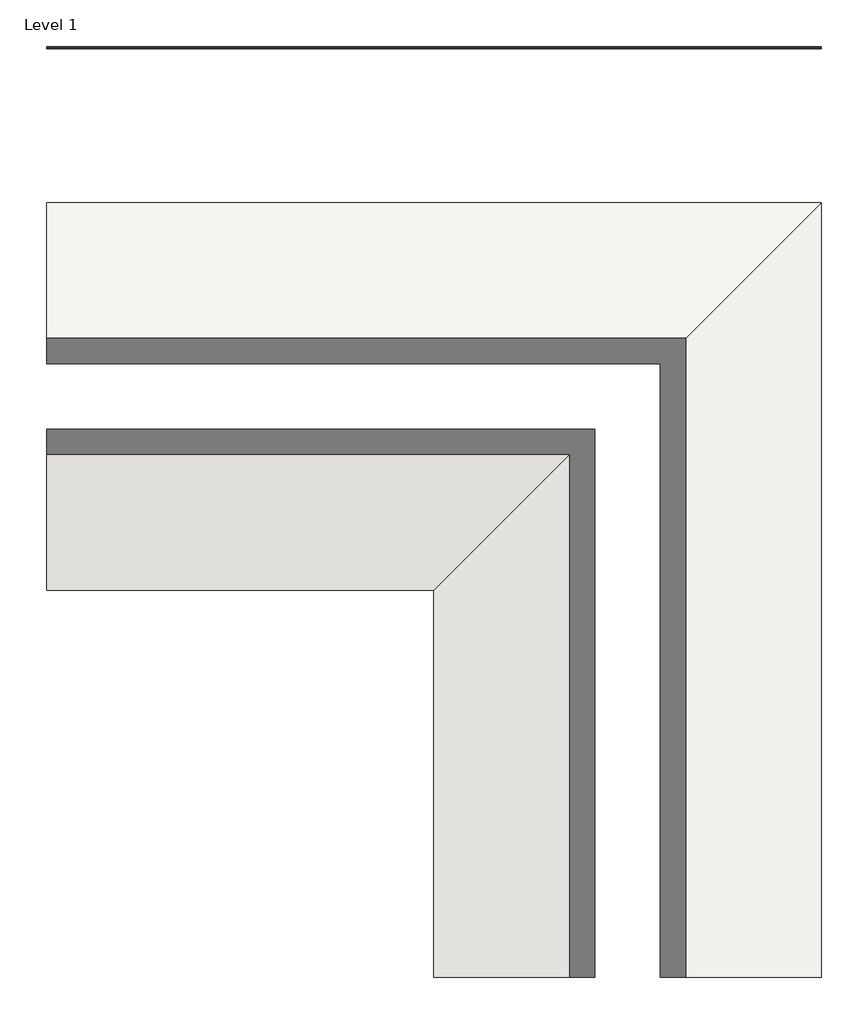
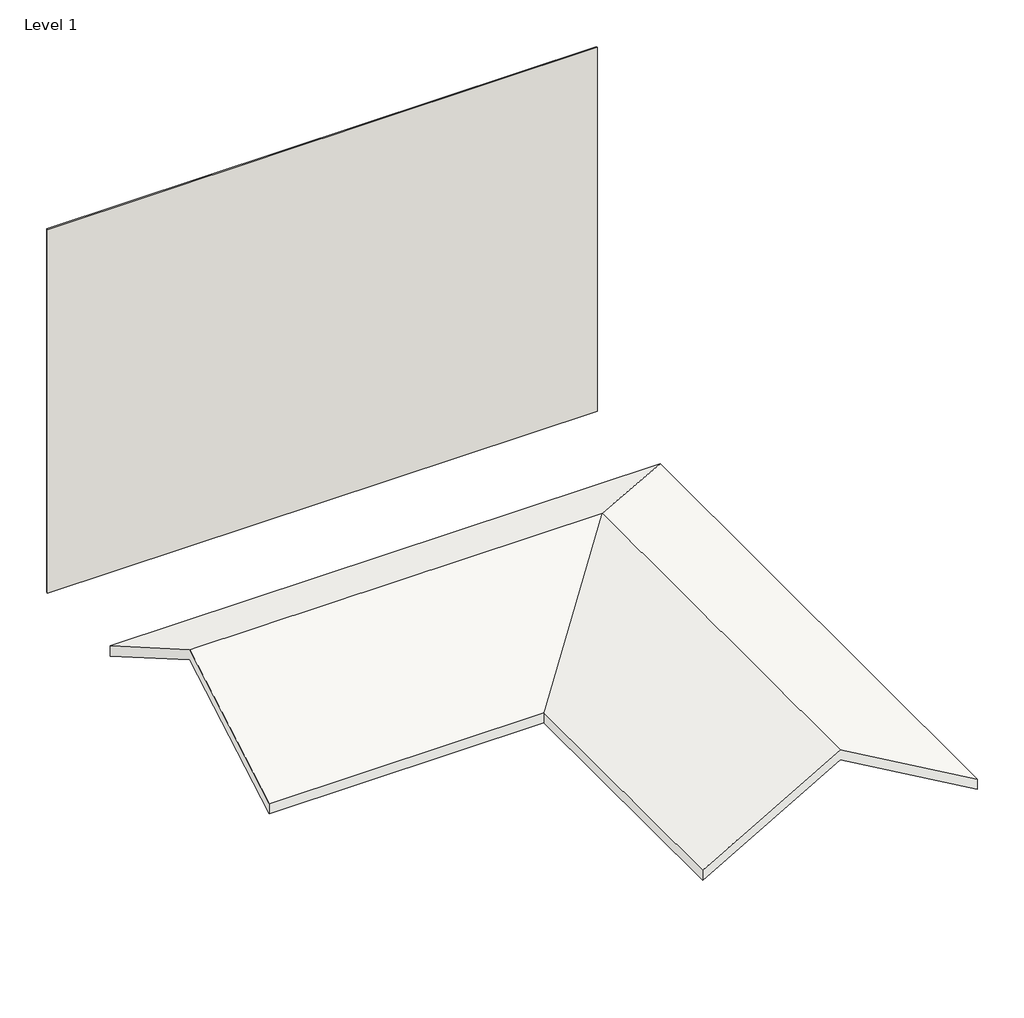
# One storey: 1 roof, 1 wall.
"""IFC4 building model written with IfcOpenShell, lengths in millimetres."""

from ifc_helpers import new_model, si_unit, origin, origin_with_axes, place, context, project, spatial, polyline, outline, extrude, faceted_brep, element, save

model = new_model("IFC4")

# Units and contexts
model_context = context("Model", 3, world=origin())
ifc_project = project(units=[si_unit("LENGTHUNIT", "METRE", prefix="MILLI")], contexts=[model_context])

# Site, building, storey
site = spatial("IfcSite", under=ifc_project)
building = spatial("IfcBuilding", under=site)
storey = spatial("IfcBuildingStorey", under=building, Name="Level 1", Elevation=0.0)

# Roof
placement = place(None, origin())
element("IfcRoof", 1, ObjectType="Techo LP OSB HOME", at=placement, inside=storey, context=model_context, shape_type="Brep", body=[
    faceted_brep([(-1497.2800699, 1569.912234, 1443.375673), (-1497.2800699, 4069.912234, 0.0), (8502.7199301, 4069.912234, 0.0), (6002.7199301, 1569.912234, 1443.375673), (3502.7199301, -930.087766, 0.0), (-1497.2800699, -930.087766, 0.0), (3502.7199301, -5930.087766, 0.0), (6002.7199301, -5930.087766, 1443.375673), (8502.7199301, -5930.087766, 0.0), (-1497.2800699, 4069.912234, 193.4123402), (-1497.2800699, 1569.912234, 1636.7880132), (6002.7199301, 1569.912234, 1636.7880132), (8502.7199301, 4069.912234, 193.4123402), (-1497.2800699, -930.087766, 193.4123402), (3502.7199301, -930.087766, 193.4123402), (3502.7199301, -5930.087766, 193.4123402), (6002.7199301, -5930.087766, 1636.7880132), (8502.7199301, -5930.087766, 193.4123402)], [[[0, 1, 2, 3]], [[4, 5, 0, 3]], [[6, 4, 3, 7]], [[8, 7, 3, 2]], [[9, 10, 11, 12]], [[13, 14, 11, 10]], [[14, 15, 16, 11]], [[17, 12, 11, 16]], [[4, 14, 13, 5]], [[6, 15, 14, 4]], [[2, 12, 17, 8]], [[1, 9, 12, 2]], [[13, 10, 9, 1, 0, 5]], [[17, 16, 15, 6, 7, 8]]]),
])

# Wall
element("IfcWall", 2, ObjectType="Muro LP OSB HOME", at=placement, inside=storey, context=model_context, shape_type="SweptSolid", body=[
    extrude(outline(polyline([(8502.7199301, 6054.912234), (-1497.2800699, 6054.912234), (-1497.2800699, 6084.912234), (8502.7199301, 6084.912234), (8502.7199301, 6054.912234)])), origin_with_axes(), (0.0, 0.0, 1.0), 7000.0),
])

save(model, "model.ifc")
